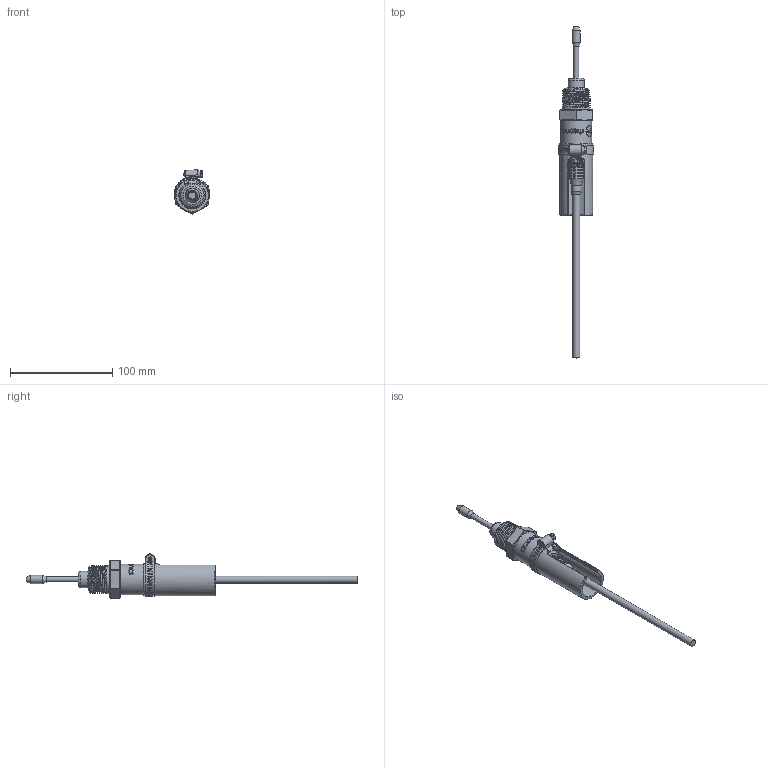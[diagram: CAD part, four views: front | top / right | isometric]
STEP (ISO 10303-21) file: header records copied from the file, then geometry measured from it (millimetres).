
FILE_DESCRIPTION(/* description */ ('Unknown'),/* implementation_level */ '2;1');
FILE_NAME(/* name */ 'SRV-NPT_IMS-SR',/* time_stamp */ '2023-12-14T10:13:01-05:00',/* author */ ('Unknown'),/* organization */ ('Unknown'),/* preprocessor_version */ 'ST-DEVELOPER v16.7',/* originating_system */ 'Solid Edge',/* authorisation */ 'Unknown');
FILE_SCHEMA (('CONFIG_CONTROL_DESIGN'));
Products named in the file (5): SRV-NPT_IMS-SR; SRV_NPT; IMS-SR; M12_Cable_oa_0; Worm drive
Assembly tree (4 placements, depth 2):
  SRV-NPT_IMS-SR
    SRV_NPT
    IMS-SR
    M12_Cable_oa_0
    Worm drive
Bounding box: 34.56 x 324.62 x 43.32 mm (x, y, z)
Volume: 73636.5 mm3; surface area: 32032.8 mm2
Topology: 6 solids, 6 shells, 1010 faces, 2836 edges, 1875 vertices
Faces by surface type: plane 532, cylinder 210, bspline 210, cone 35, sphere 17, torus 6
Full cylindrical faces by diameter (mm): 0.8 x16, 3.175 x2, 5 x1, 6.35 x1, 7 x2, 8 x3, 9 x1, 12 x7, 12.5 x1, 14 x1, 16 x1, 30 x1
Entity records: 56352 total; most frequent: CARTESIAN_POINT 27139, ORIENTED_EDGE 5314, DIRECTION 4425, EDGE_CURVE 2657, VERTEX_POINT 1788, AXIS2_PLACEMENT_3D 1503, LINE 1419, VECTOR 1419
